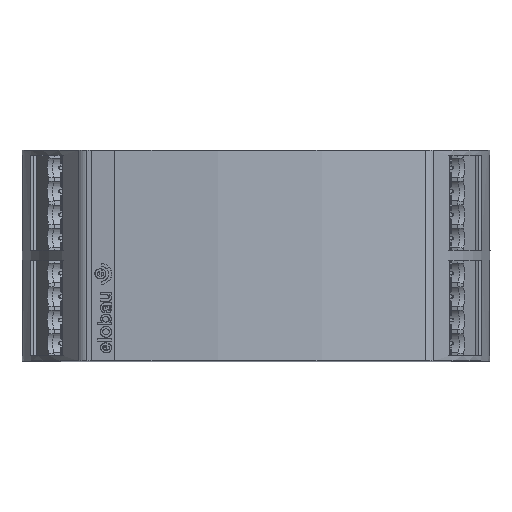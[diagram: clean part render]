
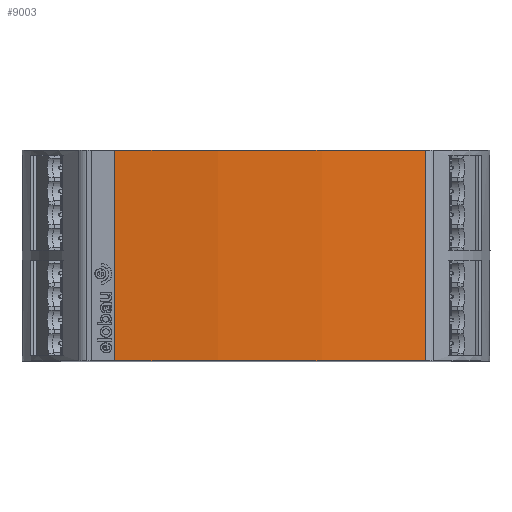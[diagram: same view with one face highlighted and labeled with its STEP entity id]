
A CAD part, top view. The second image highlights one B-rep face of the part: STEP entity #9003.
In plain terms, the highlighted cylindrical face has radius 200 mm (diameter 400 mm), a partial arc.
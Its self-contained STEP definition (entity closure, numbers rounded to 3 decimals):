
#6161=CYLINDRICAL_SURFACE('',#45558,200.);
#7244=CIRCLE('',#44498,200.);
#7510=CIRCLE('',#45231,200.);
#9003=ADVANCED_FACE('',(#12414),#6161,.T.);
#12414=FACE_OUTER_BOUND('',#14503,.T.);
#14503=EDGE_LOOP('',(#22445,#22446,#22447,#22448));
#22445=ORIENTED_EDGE('',*,*,#31896,.T.);
#22446=ORIENTED_EDGE('',*,*,#33635,.F.);
#22447=ORIENTED_EDGE('',*,*,#33173,.T.);
#22448=ORIENTED_EDGE('',*,*,#33636,.T.);
#27782=VERTEX_POINT('',#60516);
#27783=VERTEX_POINT('',#60518);
#28576=VERTEX_POINT('',#63678);
#28577=VERTEX_POINT('',#63680);
#31896=EDGE_CURVE('',#27783,#27782,#7244,.T.);
#33173=EDGE_CURVE('',#28577,#28576,#7510,.T.);
#33635=EDGE_CURVE('',#28577,#27782,#37935,.T.);
#33636=EDGE_CURVE('',#28576,#27783,#37936,.T.);
#37935=LINE('',#65044,#41890);
#37936=LINE('',#65046,#41891);
#41890=VECTOR('',#53169,1.);
#41891=VECTOR('',#53172,1.);
#44498=AXIS2_PLACEMENT_3D('',#60517,#49919,#49920);
#45231=AXIS2_PLACEMENT_3D('',#63679,#52278,#52279);
#45558=AXIS2_PLACEMENT_3D('',#65047,#53173,#53174);
#49919=DIRECTION('',(0.,1.,0.));
#49920=DIRECTION('',(-0.151,0.,0.989));
#52278=DIRECTION('',(0.,-1.,0.));
#52279=DIRECTION('',(0.181,0.,0.984));
#53169=DIRECTION('',(0.,-1.,0.));
#53172=DIRECTION('',(0.,-1.,0.));
#53173=DIRECTION('',(0.,-1.,0.));
#53174=DIRECTION('',(0.181,0.,0.984));
#60516=CARTESIAN_POINT('',(36.121,-22.5,116.711));
#60517=CARTESIAN_POINT('',(0.,-22.5,-80.));
#60518=CARTESIAN_POINT('',(-30.155,-22.5,117.714));
#63678=CARTESIAN_POINT('',(-30.155,22.5,117.714));
#63679=CARTESIAN_POINT('',(0.,22.5,-80.));
#63680=CARTESIAN_POINT('',(36.121,22.5,116.711));
#65044=CARTESIAN_POINT('',(36.121,22.5,116.711));
#65046=CARTESIAN_POINT('',(-30.155,22.5,117.714));
#65047=CARTESIAN_POINT('',(0.,24.4,-80.));
